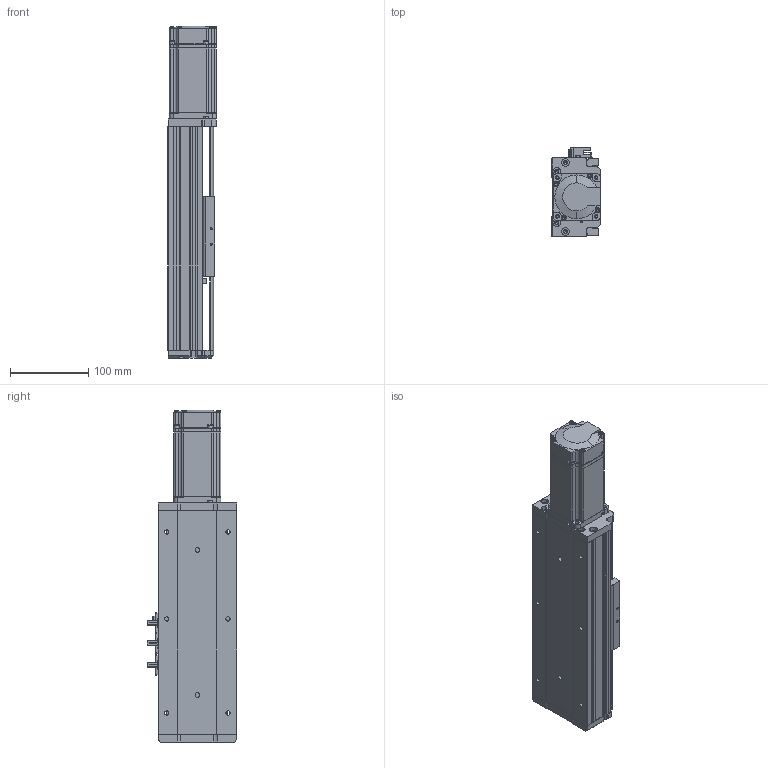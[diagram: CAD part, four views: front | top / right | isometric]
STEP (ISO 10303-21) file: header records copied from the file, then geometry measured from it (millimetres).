
FILE_DESCRIPTION (( 'STEP AP203' ), '1' );
FILE_NAME ('KSD100S-S50-MN-CM.STEP', '2019-08-30T06:44:15', ( '微软用户' ), ( '微软中国' ), 'SwSTEP 2.0', 'SolidWorks 2014', '' );
FILE_SCHEMA (( 'CONFIG_CONTROL_DESIGN' ));
Length unit declared in the file: millimetre
Products named in the file (9): 100宽底板半封闭50行程丝杆不带电机座; 100遵傷啣; 100宽滚珠螺姆安装板半封闭; U倰嫖萇EEㄜSX672; 100宽马达安装板不带电机座; 覜茼え100遵圉猾敕; 100宽防尘板丝杆50行程不带电机座; MHMD042G1CA_2_03; KSD100S-S50-MN-CM
Assembly tree (10 placements, depth 2):
  KSD100S-S50-MN-CM
    100宽底板半封闭50行程丝杆不带电机座
    100遵傷啣
    100宽滚珠螺姆安装板半封闭
    100宽马达安装板不带电机座
    100宽防尘板丝杆50行程不带电机座
    U倰嫖萇EEㄜSX672  x3
    覜茼え100遵圉猾敕
    MHMD042G1CA_2_03
Bounding box: 62 x 113.7 x 423.5 mm (x, y, z)
Volume: 728078.6 mm3; surface area: 296936.4 mm2
Topology: 9 solids, 10 shells, 1220 faces, 3479 edges, 2260 vertices
Faces by surface type: plane 577, cylinder 513, cone 112, bspline 18
Entity records: 35750 total; most frequent: CARTESIAN_POINT 7626, DIRECTION 5825, ORIENTED_EDGE 5538, EDGE_CURVE 2841, AXIS2_PLACEMENT_3D 2053, VERTEX_POINT 1884, LINE 1719, VECTOR 1719
